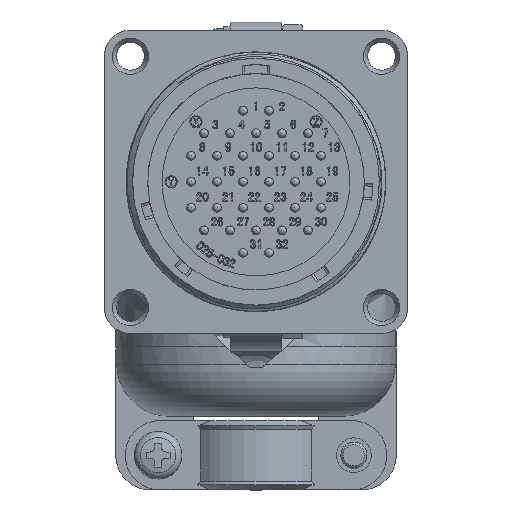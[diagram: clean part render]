
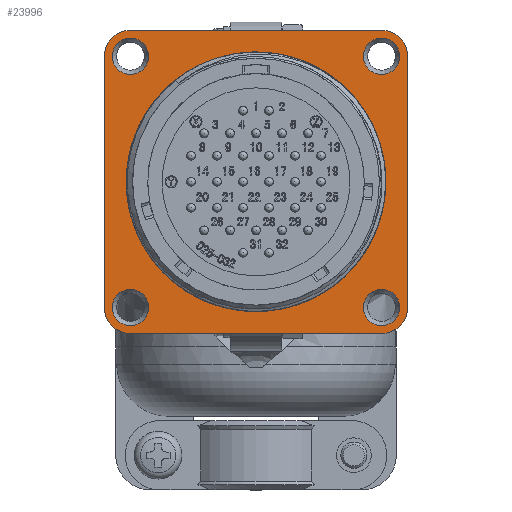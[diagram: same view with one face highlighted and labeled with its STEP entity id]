
A CAD part, top view. The second image highlights one B-rep face of the part: STEP entity #23996.
In plain terms, the highlighted planar face has unit normal (0, 0, 1).
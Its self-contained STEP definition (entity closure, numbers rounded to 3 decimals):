
#248 = VERTEX_POINT ( 'NONE', #79931 ) ;
#1006 = FACE_OUTER_BOUND ( 'NONE', #135679, .T. ) ;
#1200 = ORIENTED_EDGE ( 'NONE', *, *, #68297, .F. ) ;
#1752 = CARTESIAN_POINT ( 'NONE',  ( 16.6, -14.5, -10.5 ) ) ;
#4002 = AXIS2_PLACEMENT_3D ( 'NONE', #32063, #109178, #33446 ) ;
#4149 = DIRECTION ( 'NONE',  ( 1., 0., 0. ) ) ;
#5998 = VERTEX_POINT ( 'NONE', #19517 ) ;
#6594 = DIRECTION ( 'NONE',  ( 0., 0., 1. ) ) ;
#7374 = VERTEX_POINT ( 'NONE', #90092 ) ;
#7522 = VERTEX_POINT ( 'NONE', #137019 ) ;
#9876 = EDGE_CURVE ( 'NONE', #127296, #127296, #88301, .T. ) ;
#10055 = ORIENTED_EDGE ( 'NONE', *, *, #19740, .F. ) ;
#10472 = EDGE_CURVE ( 'NONE', #7374, #31424, #121913, .T. ) ;
#11932 = EDGE_LOOP ( 'NONE', ( #50960 ) ) ;
#12386 = CARTESIAN_POINT ( 'NONE',  ( 14.5, -14.5, -10.5 ) ) ;
#12707 = EDGE_LOOP ( 'NONE', ( #10055 ) ) ;
#13285 = CIRCLE ( 'NONE', #29107, 3. ) ;
#14441 = FACE_BOUND ( 'NONE', #122795, .T. ) ;
#15804 = EDGE_LOOP ( 'NONE', ( #71669 ) ) ;
#15906 = VECTOR ( 'NONE', #4149, 1000. ) ;
#16503 = DIRECTION ( 'NONE',  ( 1., 0., 0. ) ) ;
#19517 = CARTESIAN_POINT ( 'NONE',  ( -17.5, 14.5, -10.5 ) ) ;
#19740 = EDGE_CURVE ( 'NONE', #75127, #75127, #107417, .T. ) ;
#20109 = EDGE_CURVE ( 'NONE', #123852, #5998, #31579, .T. ) ;
#23996 = ADVANCED_FACE ( 'NONE', ( #1006, #130394, #90091, #101843, #14441, #61461 ), #93069, .T. ) ;
#26643 = CARTESIAN_POINT ( 'NONE',  ( 14.5, 17.5, -10.5 ) ) ;
#26807 = AXIS2_PLACEMENT_3D ( 'NONE', #31310, #65576, #42545 ) ;
#28669 = DIRECTION ( 'NONE',  ( 1., 0., 0. ) ) ;
#29107 = AXIS2_PLACEMENT_3D ( 'NONE', #12386, #120960, #131731 ) ;
#31122 = AXIS2_PLACEMENT_3D ( 'NONE', #98426, #119565, #87577 ) ;
#31310 = CARTESIAN_POINT ( 'NONE',  ( 14.5, 14.5, -10.5 ) ) ;
#31424 = VERTEX_POINT ( 'NONE', #113260 ) ;
#31579 = LINE ( 'NONE', #126237, #36556 ) ;
#32063 = CARTESIAN_POINT ( 'NONE',  ( -14.5, -14.5, -10.5 ) ) ;
#32530 = EDGE_CURVE ( 'NONE', #7522, #109252, #85992, .T. ) ;
#33446 = DIRECTION ( 'NONE',  ( 1., 0., 0. ) ) ;
#35589 = EDGE_CURVE ( 'NONE', #31424, #7522, #106559, .T. ) ;
#36556 = VECTOR ( 'NONE', #137020, 1000. ) ;
#37598 = DIRECTION ( 'NONE',  ( 0., 0., 1. ) ) ;
#37639 = VECTOR ( 'NONE', #42184, 1000. ) ;
#38561 = CARTESIAN_POINT ( 'NONE',  ( -14.5, 14.5, -10.5 ) ) ;
#42184 = DIRECTION ( 'NONE',  ( -1., 0., 0. ) ) ;
#42545 = DIRECTION ( 'NONE',  ( -1., 0., 0. ) ) ;
#42926 = CARTESIAN_POINT ( 'NONE',  ( 17.5, 14.5, -10.5 ) ) ;
#43722 = CARTESIAN_POINT ( 'NONE',  ( 14.5, -17.5, -10.5 ) ) ;
#44482 = AXIS2_PLACEMENT_3D ( 'NONE', #38561, #134019, #16503 ) ;
#45358 = CARTESIAN_POINT ( 'NONE',  ( 14.98, 0., -10.5 ) ) ;
#45362 = ORIENTED_EDGE ( 'NONE', *, *, #10472, .F. ) ;
#45636 = VECTOR ( 'NONE', #118142, 1000. ) ;
#47143 = EDGE_CURVE ( 'NONE', #5998, #7374, #98461, .T. ) ;
#50216 = DIRECTION ( 'NONE',  ( 1., 0., 0. ) ) ;
#50846 = ORIENTED_EDGE ( 'NONE', *, *, #71864, .F. ) ;
#50960 = ORIENTED_EDGE ( 'NONE', *, *, #9876, .F. ) ;
#51481 = VERTEX_POINT ( 'NONE', #68355 ) ;
#53447 = EDGE_CURVE ( 'NONE', #88460, #88460, #92692, .T. ) ;
#55781 = AXIS2_PLACEMENT_3D ( 'NONE', #60140, #37598, #28669 ) ;
#56502 = CARTESIAN_POINT ( 'NONE',  ( 14.5, -14.5, -10.5 ) ) ;
#58060 = ORIENTED_EDGE ( 'NONE', *, *, #84152, .F. ) ;
#60140 = CARTESIAN_POINT ( 'NONE',  ( -14.5, -14.5, -10.5 ) ) ;
#60349 = AXIS2_PLACEMENT_3D ( 'NONE', #105940, #85682, #74413 ) ;
#61461 = FACE_BOUND ( 'NONE', #15804, .T. ) ;
#61502 = ORIENTED_EDGE ( 'NONE', *, *, #47143, .F. ) ;
#65576 = DIRECTION ( 'NONE',  ( 0., 0., -1. ) ) ;
#66233 = LINE ( 'NONE', #138537, #37639 ) ;
#66607 = DIRECTION ( 'NONE',  ( 0., 0., -1. ) ) ;
#66661 = VERTEX_POINT ( 'NONE', #43722 ) ;
#66861 = DIRECTION ( 'NONE',  ( 1., 0., 0. ) ) ;
#67527 = CARTESIAN_POINT ( 'NONE',  ( 0., 0., -10.5 ) ) ;
#68297 = EDGE_CURVE ( 'NONE', #51481, #51481, #119242, .T. ) ;
#68355 = CARTESIAN_POINT ( 'NONE',  ( 16.6, 14.5, -10.5 ) ) ;
#71647 = VERTEX_POINT ( 'NONE', #81511 ) ;
#71669 = ORIENTED_EDGE ( 'NONE', *, *, #53447, .T. ) ;
#71864 = EDGE_CURVE ( 'NONE', #248, #123852, #85038, .T. ) ;
#74413 = DIRECTION ( 'NONE',  ( 1., 0., 0. ) ) ;
#75127 = VERTEX_POINT ( 'NONE', #1752 ) ;
#78119 = ORIENTED_EDGE ( 'NONE', *, *, #20109, .F. ) ;
#78198 = EDGE_LOOP ( 'NONE', ( #1200 ) ) ;
#79931 = CARTESIAN_POINT ( 'NONE',  ( -14.5, -17.5, -10.5 ) ) ;
#81511 = CARTESIAN_POINT ( 'NONE',  ( -12.4, 14.5, -10.5 ) ) ;
#84152 = EDGE_CURVE ( 'NONE', #109252, #66661, #13285, .T. ) ;
#85038 = CIRCLE ( 'NONE', #31122, 3. ) ;
#85651 = ORIENTED_EDGE ( 'NONE', *, *, #107912, .F. ) ;
#85682 = DIRECTION ( 'NONE',  ( 0., 0., -1. ) ) ;
#85903 = ORIENTED_EDGE ( 'NONE', *, *, #123879, .F. ) ;
#85992 = LINE ( 'NONE', #42926, #45636 ) ;
#86599 = CIRCLE ( 'NONE', #44482, 2.1 ) ;
#87577 = DIRECTION ( 'NONE',  ( 1., 0., 0. ) ) ;
#87593 = CARTESIAN_POINT ( 'NONE',  ( 17.5, -14.5, -10.5 ) ) ;
#88026 = DIRECTION ( 'NONE',  ( 0., 0., 1. ) ) ;
#88301 = CIRCLE ( 'NONE', #4002, 2.1 ) ;
#88460 = VERTEX_POINT ( 'NONE', #45358 ) ;
#90091 = FACE_BOUND ( 'NONE', #12707, .T. ) ;
#90092 = CARTESIAN_POINT ( 'NONE',  ( -14.5, 17.5, -10.5 ) ) ;
#92692 = CIRCLE ( 'NONE', #133908, 14.98 ) ;
#93069 = PLANE ( 'NONE',  #55781 ) ;
#98426 = CARTESIAN_POINT ( 'NONE',  ( -14.5, -14.5, -10.5 ) ) ;
#98461 = CIRCLE ( 'NONE', #60349, 3. ) ;
#99879 = ORIENTED_EDGE ( 'NONE', *, *, #35589, .F. ) ;
#101843 = FACE_BOUND ( 'NONE', #78198, .T. ) ;
#105153 = CARTESIAN_POINT ( 'NONE',  ( -12.4, -14.5, -10.5 ) ) ;
#105940 = CARTESIAN_POINT ( 'NONE',  ( -14.5, 14.5, -10.5 ) ) ;
#106559 = CIRCLE ( 'NONE', #26807, 3. ) ;
#107417 = CIRCLE ( 'NONE', #119659, 2.1 ) ;
#107912 = EDGE_CURVE ( 'NONE', #71647, #71647, #86599, .T. ) ;
#109178 = DIRECTION ( 'NONE',  ( 0., 0., 1. ) ) ;
#109252 = VERTEX_POINT ( 'NONE', #87593 ) ;
#109906 = DIRECTION ( 'NONE',  ( 1., 0., 0. ) ) ;
#113260 = CARTESIAN_POINT ( 'NONE',  ( 14.5, 17.5, -10.5 ) ) ;
#115588 = CARTESIAN_POINT ( 'NONE',  ( 14.5, 14.5, -10.5 ) ) ;
#118142 = DIRECTION ( 'NONE',  ( 0., -1., 0. ) ) ;
#119242 = CIRCLE ( 'NONE', #129146, 2.1 ) ;
#119565 = DIRECTION ( 'NONE',  ( 0., 0., -1. ) ) ;
#119659 = AXIS2_PLACEMENT_3D ( 'NONE', #56502, #88026, #66861 ) ;
#120960 = DIRECTION ( 'NONE',  ( 0., 0., -1. ) ) ;
#121913 = LINE ( 'NONE', #26643, #15906 ) ;
#122795 = EDGE_LOOP ( 'NONE', ( #85651 ) ) ;
#123852 = VERTEX_POINT ( 'NONE', #124555 ) ;
#123879 = EDGE_CURVE ( 'NONE', #66661, #248, #66233, .T. ) ;
#124555 = CARTESIAN_POINT ( 'NONE',  ( -17.5, -14.5, -10.5 ) ) ;
#126237 = CARTESIAN_POINT ( 'NONE',  ( -17.5, 14.5, -10.5 ) ) ;
#127296 = VERTEX_POINT ( 'NONE', #105153 ) ;
#129146 = AXIS2_PLACEMENT_3D ( 'NONE', #115588, #6594, #50216 ) ;
#130394 = FACE_BOUND ( 'NONE', #11932, .T. ) ;
#131731 = DIRECTION ( 'NONE',  ( -1., 0., 0. ) ) ;
#133908 = AXIS2_PLACEMENT_3D ( 'NONE', #67527, #66607, #109906 ) ;
#134019 = DIRECTION ( 'NONE',  ( 0., 0., 1. ) ) ;
#134022 = ORIENTED_EDGE ( 'NONE', *, *, #32530, .F. ) ;
#135679 = EDGE_LOOP ( 'NONE', ( #50846, #85903, #58060, #134022, #99879, #45362, #61502, #78119 ) ) ;
#137019 = CARTESIAN_POINT ( 'NONE',  ( 17.5, 14.5, -10.5 ) ) ;
#137020 = DIRECTION ( 'NONE',  ( 0., 1., 0. ) ) ;
#138537 = CARTESIAN_POINT ( 'NONE',  ( 14.5, -17.5, -10.5 ) ) ;
